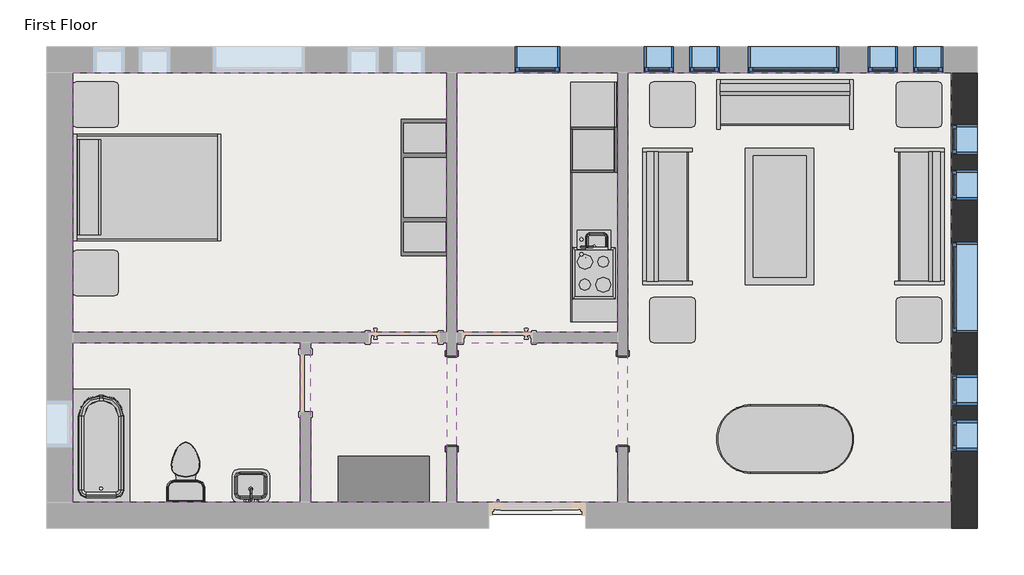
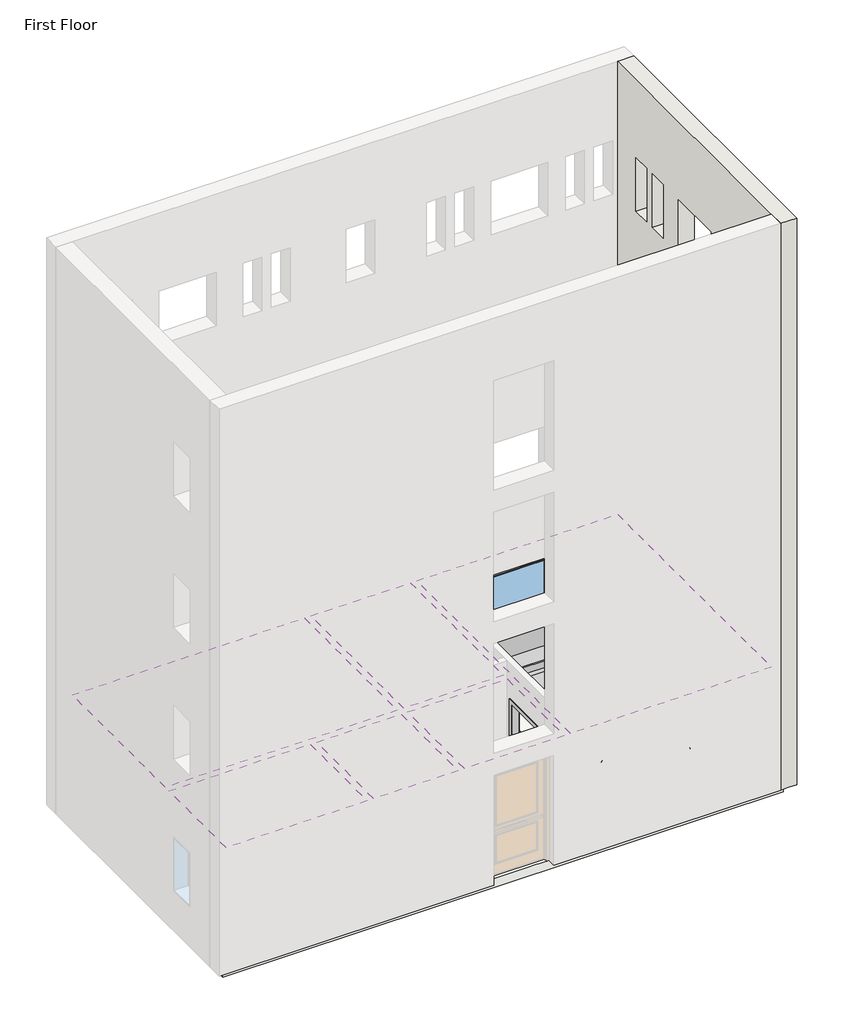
# One storey, part 2 of 2: 15 furniture elements, 11 windows, 6 coverings, 6 proxies, 4 flow terminals, 1 slab, 1 wall.
"""IFC4 building model written with IfcOpenShell, lengths in millimetres."""

from ifc_helpers import new_model, si_unit, frame, origin, place, context, project, spatial, polyline, outline, extrude, faceted_brep, transform, mapped, element, save
from components import m_cook_top_4_unit2_0615_x_500mm_249f3515, m_dishwasher_610_x_610_x_875mm_54ecfc4c, m_kitchenette_medium_m_kitchenette_medium_3ff942c7, m_passage_opening_cased_1220_x_2134_mm_87a8d9c2, m_refrigerator_600_x_660mm_a466bf94, m_sink_kitchen_island_450_x_450mm_f969cf2d, m_sink_vanity_square_500_x_440mm_1e229b74, m_toilet_domestic_3d_m_toilet_domestic_3d_5cb52bd4, m_toilet_domestic_3d_m_toilet_domestic_3d_183bbd19, m_tub_rectangular_3d_m_tub_rectangular_3d_3a981ad5, m_bed_shaker_1422_x_1981mm_double_096e7f55, m_counter_top_w_sink_hole_600mm_depth_8ccae52a, m_dresser_1220_x_1525_x_0610mm_18e1f140, m_entertainment_center_1830_x_1830_x_0610mm_f77a9b93, m_sofa_1830mm_f9e8a66b, m_table_coffee_0915_x_1830_x_0457mm_134cd960, m_table_dining_oval_0915_x_1830mm_a7cfbe21, m_table_end_0610_x_0160mm_cb6ea12e, m_fixed_0406_x_1220mm_57fee329, m_fixed_0406_x_1220mm_85c28f40, m_fixed_0610_x_1220mm_2c28ef1d, m_fixed_1220_x_1220_e08ff7af

model = new_model("IFC4")

# Units and contexts
model_context = context("Model", 3, world=origin())
ifc_project = project(units=[si_unit("LENGTHUNIT", "METRE", prefix="MILLI")], contexts=[model_context])

# Site, building, storey
site = spatial("IfcSite", under=ifc_project)
building = spatial("IfcBuilding", under=site)
storey = spatial("IfcBuildingStorey", under=building, Name="First Floor", Elevation=0.0)

# Proxies
placement = place(None, origin())
m_cook_top_4_unit2_0615_x_500mm_shape = m_cook_top_4_unit2_0615_x_500mm_249f3515(model_context)
element("IfcBuildingElementProxy", 1, Name="M_Cook Top-4 Unit2 : 0615 x 500mm", ObjectType="M_Cook Top-4 Unit2 : 0615 x 500mm", at=placement, inside=storey, context=model_context, shape_type="MappedRepresentation", body=[
    mapped(m_cook_top_4_unit2_0615_x_500mm_shape, transform((-11224.1822145, 11168.140104, 31.0), x_axis=(0.0, 1.0, 0.0), y_axis=(-1.0, 0.0, 0.0), z_axis=(0.0, 0.0, 1.0))),
])
m_dishwasher_610_x_610_x_875mm_shape = m_dishwasher_610_x_610_x_875mm_54ecfc4c(model_context)
element("IfcBuildingElementProxy", 2, Name="M_Dishwasher : 610 x 610 x 875mm", ObjectType="M_Dishwasher : 610 x 610 x 875mm", at=placement, inside=storey, context=model_context, shape_type="MappedRepresentation", body=[
    mapped(m_dishwasher_610_x_610_x_875mm_shape, transform((-10967.5326497, 13033.8726355, 0.0), x_axis=(0.0, 1.0, 0.0), y_axis=(-1.0, 0.0, 0.0), z_axis=(0.0, 0.0, 1.0))),
])
m_kitchenette_medium_m_kitchenette_medium_shape = m_kitchenette_medium_m_kitchenette_medium_3ff942c7(model_context)
element("IfcBuildingElementProxy", 3, Name="M_Kitchenette - Medium : M_Kitchenette - Medium", ObjectType="M_Kitchenette - Medium : M_Kitchenette - Medium", at=placement, inside=storey, context=model_context, shape_type="MappedRepresentation", body=[
    mapped(m_kitchenette_medium_m_kitchenette_medium_shape, transform((-11539.1822145, 11797.152399, 0.0), x_axis=(0.0, 1.0, 0.0), y_axis=(-1.0, 0.0, 0.0), z_axis=(0.0, 0.0, 1.0))),
])
m_passage_opening_cased_1220_x_2134_mm_shape = m_passage_opening_cased_1220_x_2134_mm_87a8d9c2(model_context)
element("IfcBuildingElementProxy", 4, Name="M_Passage Opening-Cased : 1220 x 2134 mm", ObjectType="M_Passage Opening-Cased : 1220 x 2134 mm", at=placement, inside=storey, context=model_context, shape_type="MappedRepresentation", body=[
    mapped(m_passage_opening_cased_1220_x_2134_mm_shape, transform((-10841.0930086, 9462.255705, 0.0), x_axis=(0.0, 1.0, 0.0), y_axis=(-1.0, 0.0, 0.0), z_axis=(0.0, 0.0, 1.0))),
])
element("IfcBuildingElementProxy", 5, Name="M_Passage Opening-Cased : 1220 x 2134 mm", ObjectType="M_Passage Opening-Cased : 1220 x 2134 mm", at=placement, inside=storey, context=model_context, shape_type="MappedRepresentation", body=[
    mapped(m_passage_opening_cased_1220_x_2134_mm_shape, transform((-13127.0930086, 9445.8783915, 0.0), x_axis=(0.0, -1.0, 0.0), y_axis=(1.0, 0.0, 0.0), z_axis=(0.0, 0.0, 1.0))),
])
m_refrigerator_600_x_660mm_shape = m_refrigerator_600_x_660mm_a466bf94(model_context)
element("IfcBuildingElementProxy", 6, Name="M_Refrigerator : 600 x 660mm", ObjectType="M_Refrigerator : 600 x 660mm", at=placement, inside=storey, context=model_context, shape_type="MappedRepresentation", body=[
    mapped(m_refrigerator_600_x_660mm_shape, transform((-11242.9671243, 12874.1912466, 0.0), x_axis=(0.0, 1.0, 0.0), y_axis=(-1.0, 0.0, 0.0), z_axis=(0.0, 0.0, 1.0))),
])

# Coverings
element("IfcCovering", 7, ObjectType="Plain", at=placement, inside=storey, context=model_context, shape_type="SweptSolid", body=[
    extrude(outline(polyline([(-18201.8430086, 13851.0670483), (-13194.8430086, 13851.0670483), (-13194.8430086, 10374.5670483), (-18201.8430086, 10374.5670483), (-18201.8430086, 13851.0670483)])), frame((0.0, 0.0, 2590.0), z_axis=(0.0, 0.0, 1.0), x_axis=(1.0, 0.0, 0.0)), (0.0, 0.0, 1.0), 57.0),
])
element("IfcCovering", 8, ObjectType="Plain", at=placement, inside=storey, context=model_context, shape_type="SweptSolid", body=[
    extrude(outline(polyline([(-13059.3430086, 10374.5670483), (-13059.3430086, 13851.0670483), (-10908.8430086, 13851.0670483), (-10908.8430086, 10374.5670483), (-13059.3430086, 10374.5670483)])), frame((0.0, 0.0, 2590.0), z_axis=(0.0, 0.0, 1.0), x_axis=(1.0, 0.0, 0.0)), (0.0, 0.0, 1.0), 57.0),
])
element("IfcCovering", 9, ObjectType="Plain", at=placement, inside=storey, context=model_context, shape_type="SweptSolid", body=[
    extrude(outline(polyline([(-10773.3430086, 8105.0670483), (-10773.3430086, 13851.0670483), (-6444.0930086, 13851.0670483), (-6444.0930086, 8105.0670483), (-10773.3430086, 8105.0670483)])), frame((0.0, 0.0, 2590.0), z_axis=(0.0, 0.0, 1.0), x_axis=(1.0, 0.0, 0.0)), (0.0, 0.0, 1.0), 57.0),
])
element("IfcCovering", 10, ObjectType="Plain", at=placement, inside=storey, context=model_context, shape_type="SweptSolid", body=[
    extrude(outline(polyline([(-10908.8430086, 8105.0670483), (-13059.3430086, 8105.0670483), (-13059.3430086, 10239.0670483), (-10908.8430086, 10239.0670483), (-10908.8430086, 8105.0670483)])), frame((0.0, 0.0, 2590.0), z_axis=(0.0, 0.0, 1.0), x_axis=(1.0, 0.0, 0.0)), (0.0, 0.0, 1.0), 57.0),
])
element("IfcCovering", 11, ObjectType="Plain", at=placement, inside=storey, context=model_context, shape_type="SweptSolid", body=[
    extrude(outline(polyline([(-13194.8430086, 8105.0670483), (-15018.3430086, 8105.0670483), (-15018.3430086, 10239.0670483), (-13194.8430086, 10239.0670483), (-13194.8430086, 8105.0670483)])), frame((0.0, 0.0, 2590.0), z_axis=(0.0, 0.0, 1.0), x_axis=(1.0, 0.0, 0.0)), (0.0, 0.0, 1.0), 57.0),
])
element("IfcCovering", 12, ObjectType="Plain", at=placement, inside=storey, context=model_context, shape_type="SweptSolid", body=[
    extrude(outline(polyline([(-15153.8430086, 10239.0670483), (-15153.8430086, 8105.0670483), (-18201.8430086, 8105.0670483), (-18201.8430086, 10239.0670483), (-15153.8430086, 10239.0670483)])), frame((0.0, 0.0, 2590.0), z_axis=(0.0, 0.0, 1.0), x_axis=(1.0, 0.0, 0.0)), (0.0, 0.0, 1.0), 57.0),
])

# Flow terminals
m_sink_kitchen_island_450_x_450mm_shape = m_sink_kitchen_island_450_x_450mm_f969cf2d(model_context)
element("IfcFlowTerminal", 13, ObjectType="M_Sink Kitchen-Island : 450 x 450mm", at=placement, inside=storey, context=model_context, shape_type="MappedRepresentation", body=[
    mapped(m_sink_kitchen_island_450_x_450mm_shape, transform((-11223.7368134, 11504.7008634, 31.0), x_axis=(0.0, 1.0, 0.0), y_axis=(-1.0, 0.0, 0.0), z_axis=(0.0, 0.0, 1.0))),
])
m_sink_vanity_square_500_x_440mm_shape = m_sink_vanity_square_500_x_440mm_1e229b74(model_context)
element("IfcFlowTerminal", 14, ObjectType="M_Sink Vanity-Square : 500 x 440mm", at=placement, inside=storey, context=model_context, shape_type="MappedRepresentation", body=[
    mapped(m_sink_vanity_square_500_x_440mm_shape, transform((-15802.3094072, 8285.2124494, 0.0), x_axis=(-1.0, 0.0, 0.0), y_axis=(0.0, -1.0, 0.0), z_axis=(0.0, 0.0, 1.0))),
])
m_toilet_domestic_3d_m_toilet_domestic_3d_shape = m_toilet_domestic_3d_m_toilet_domestic_3d_5cb52bd4(model_context)
m_toilet_domestic_3d_m_toilet_domestic_3d_2_shape = m_toilet_domestic_3d_m_toilet_domestic_3d_183bbd19(model_context)
element("IfcFlowTerminal", 15, ObjectType="M_Toilet-Domestic-3D : M_Toilet-Domestic-3D", at=placement, inside=storey, context=model_context, shape_type="MappedRepresentation", body=[
    mapped(m_toilet_domestic_3d_m_toilet_domestic_3d_shape, transform((-16689.489036, 8599.7630756, 0.0), x_axis=(-1.0, 0.0, 0.0), y_axis=(0.0, -1.0, 0.0), z_axis=(0.0, 0.0, 1.0))),
    mapped(m_toilet_domestic_3d_m_toilet_domestic_3d_2_shape, transform((-16689.489036, 8599.7630756, 0.0), x_axis=(-1.0, 0.0, 0.0), y_axis=(0.0, -1.0, 0.0), z_axis=(0.0, 0.0, 1.0))),
])
m_tub_rectangular_3d_m_tub_rectangular_3d_shape = m_tub_rectangular_3d_m_tub_rectangular_3d_3a981ad5(model_context)
element("IfcFlowTerminal", 16, ObjectType="M_Tub-Rectangular-3D : M_Tub-Rectangular-3D", at=placement, inside=storey, context=model_context, shape_type="MappedRepresentation", body=[
    mapped(m_tub_rectangular_3d_m_tub_rectangular_3d_shape, transform((-18376.8430086, 9198.170017, 0.0), x_axis=(0.0, 1.0, 0.0), y_axis=(-1.0, 0.0, 0.0), z_axis=(0.0, 0.0, 1.0))),
])

# Furniture
m_bed_shaker_1422_x_1981mm_double_shape = m_bed_shaker_1422_x_1981mm_double_096e7f55(model_context)
element("IfcFurniture", 17, ObjectType="M_Bed-Shaker : 1422 x 1981mm - Double", at=placement, inside=storey, context=model_context, shape_type="MappedRepresentation", body=[
    mapped(m_bed_shaker_1422_x_1981mm_double_shape, transform((-18201.8430086, 12334.7295483, 0.0), x_axis=(0.0, 1.0, 0.0), y_axis=(-1.0, 0.0, 0.0), z_axis=(0.0, 0.0, 1.0))),
])
m_counter_top_w_sink_hole_600mm_depth_shape = m_counter_top_w_sink_hole_600mm_depth_8ccae52a(model_context)
element("IfcFurniture", 18, ObjectType="M_Counter Top w Sink Hole : 600mm Depth", at=placement, inside=storey, context=model_context, shape_type="MappedRepresentation", body=[
    mapped(m_counter_top_w_sink_hole_600mm_depth_shape, transform((-11539.1822145, 11720.852399, 31.0), x_axis=(0.0, 1.0, 0.0), y_axis=(-1.0, 0.0, 0.0), z_axis=(0.0, 0.0, 1.0))),
])
m_dresser_1220_x_1525_x_0610mm_shape = m_dresser_1220_x_1525_x_0610mm_18e1f140(model_context)
element("IfcFurniture", 19, ObjectType="M_Dresser : 1220 x 1525 x 0610mm", at=placement, inside=storey, context=model_context, shape_type="MappedRepresentation", body=[
    mapped(m_dresser_1220_x_1525_x_0610mm_shape, transform((-13767.8997488, 8773.2300024, 0.0), x_axis=(1.0, 0.0, 0.0), y_axis=(0.0, 1.0, 0.0), z_axis=(0.0, 0.0, 1.0))),
])
m_entertainment_center_1830_x_1830_x_0610mm_shape = m_entertainment_center_1830_x_1830_x_0610mm_f77a9b93(model_context)
element("IfcFurniture", 20, ObjectType="M_Entertainment center : 1830 x 1830 x 0610mm", at=placement, inside=storey, context=model_context, shape_type="MappedRepresentation", body=[
    mapped(m_entertainment_center_1830_x_1830_x_0610mm_shape, transform((-13906.2430086, 12315.6795483, 0.0), x_axis=(0.0, 1.0, 0.0), y_axis=(-1.0, 0.0, 0.0), z_axis=(0.0, 0.0, 1.0))),
])
m_sofa_1830mm_shape = m_sofa_1830mm_f9e8a66b(model_context)
element("IfcFurniture", 21, ObjectType="M_Sofa : 1830mm", at=placement, inside=storey, context=model_context, shape_type="MappedRepresentation", body=[
    mapped(m_sofa_1830mm_shape, transform((-8739.4635004, 13279.9129499, 0.0), x_axis=(1.0, 0.0, 0.0), y_axis=(0.0, 1.0, 0.0), z_axis=(0.0, 0.0, 1.0))),
])
element("IfcFurniture", 22, ObjectType="M_Sofa : 1830mm", at=placement, inside=storey, context=model_context, shape_type="MappedRepresentation", body=[
    mapped(m_sofa_1830mm_shape, transform((-7015.247107, 11996.4375401, 0.0), x_axis=(0.0, -1.0, 0.0), y_axis=(1.0, 0.0, 0.0), z_axis=(0.0, 0.0, 1.0))),
])
element("IfcFurniture", 23, ObjectType="M_Sofa : 1830mm", at=placement, inside=storey, context=model_context, shape_type="MappedRepresentation", body=[
    mapped(m_sofa_1830mm_shape, transform((-10094.9389103, 11855.6965565, 0.0), x_axis=(0.0, 1.0, 0.0), y_axis=(-1.0, 0.0, 0.0), z_axis=(0.0, 0.0, 1.0))),
])
m_table_coffee_0915_x_1830_x_0457mm_shape = m_table_coffee_0915_x_1830_x_0457mm_134cd960(model_context)
element("IfcFurniture", 24, ObjectType="M_Table-Coffee : 0915 x 1830 x 0457mm", at=placement, inside=storey, context=model_context, shape_type="MappedRepresentation", body=[
    mapped(m_table_coffee_0915_x_1830_x_0457mm_shape, transform((-8645.8819308, 11907.8012816, 0.0), x_axis=(0.0, 1.0, 0.0), y_axis=(-1.0, 0.0, 0.0), z_axis=(0.0, 0.0, 1.0))),
])
m_table_dining_oval_0915_x_1830mm_shape = m_table_dining_oval_0915_x_1830mm_a7cfbe21(model_context)
element("IfcFurniture", 25, ObjectType="M_Table-Dining Oval : 0915 x 1830mm", at=placement, inside=storey, context=model_context, shape_type="MappedRepresentation", body=[
    mapped(m_table_dining_oval_0915_x_1830mm_shape, transform((-8267.2733365, 9307.4154089, 0.0), x_axis=(1.0, 0.0, 0.0), y_axis=(0.0, 1.0, 0.0), z_axis=(0.0, 0.0, 1.0))),
])
m_table_end_0610_x_0160mm_shape = m_table_end_0610_x_0160mm_cb6ea12e(model_context)
element("IfcFurniture", 26, ObjectType="M_Table-End : 0610 x 0160mm", at=placement, inside=storey, context=model_context, shape_type="MappedRepresentation", body=[
    mapped(m_table_end_0610_x_0160mm_shape, transform((-10482.8266389, 13273.6670483, 0.0), x_axis=(1.0, 0.0, 0.0), y_axis=(0.0, 1.0, 0.0), z_axis=(0.0, 0.0, 1.0))),
])
element("IfcFurniture", 27, ObjectType="M_Table-End : 0610 x 0160mm", at=placement, inside=storey, context=model_context, shape_type="MappedRepresentation", body=[
    mapped(m_table_end_0610_x_0160mm_shape, transform((-7182.8266389, 13273.6670483, 0.0), x_axis=(1.0, 0.0, 0.0), y_axis=(0.0, 1.0, 0.0), z_axis=(0.0, 0.0, 1.0))),
])
element("IfcFurniture", 28, ObjectType="M_Table-End : 0610 x 0160mm", at=placement, inside=storey, context=model_context, shape_type="MappedRepresentation", body=[
    mapped(m_table_end_0610_x_0160mm_shape, transform((-7182.8266389, 10391.6670483, 0.0), x_axis=(1.0, 0.0, 0.0), y_axis=(0.0, 1.0, 0.0), z_axis=(0.0, 0.0, 1.0))),
])
element("IfcFurniture", 29, ObjectType="M_Table-End : 0610 x 0160mm", at=placement, inside=storey, context=model_context, shape_type="MappedRepresentation", body=[
    mapped(m_table_end_0610_x_0160mm_shape, transform((-10482.8266389, 10391.6670483, 0.0), x_axis=(1.0, 0.0, 0.0), y_axis=(0.0, 1.0, 0.0), z_axis=(0.0, 0.0, 1.0))),
])
element("IfcFurniture", 30, ObjectType="M_Table-End : 0610 x 0160mm", at=placement, inside=storey, context=model_context, shape_type="MappedRepresentation", body=[
    mapped(m_table_end_0610_x_0160mm_shape, transform((-18205.5766389, 13273.6670483, 0.0), x_axis=(1.0, 0.0, 0.0), y_axis=(0.0, 1.0, 0.0), z_axis=(0.0, 0.0, 1.0))),
])
element("IfcFurniture", 31, ObjectType="M_Table-End : 0610 x 0160mm", at=placement, inside=storey, context=model_context, shape_type="MappedRepresentation", body=[
    mapped(m_table_end_0610_x_0160mm_shape, transform((-18205.5766389, 11018.6670483, 0.0), x_axis=(1.0, 0.0, 0.0), y_axis=(0.0, 1.0, 0.0), z_axis=(0.0, 0.0, 1.0))),
])

# Slab
element("IfcSlab", 32, ObjectType="160mm Concrete With 50mm Metal Deck", at=placement, inside=storey, context=model_context, shape_type="SweptSolid", body=[
    extrude(outline(polyline([(-6279.0930086, 14016.0670483), (-6279.0930086, 7940.0670483), (-18366.8430086, 7940.0670483), (-18366.8430086, 14016.0670483), (-6279.0930086, 14016.0670483)])), frame((0.0, 0.0, -210.0), z_axis=(0.0, 0.0, 1.0), x_axis=(1.0, 0.0, 0.0)), (0.0, 0.0, 1.0), 210.0),
])

# Wall
element("IfcWall", 33, ObjectType="Exterior - Brick on Mtl. Stud", at=placement, inside=storey, context=model_context, shape_type="Brep", body=[
    faceted_brep([(-6444.0930086, 13851.0670483, 0.0), (-6444.0930086, 8105.0670483, 0.0), (-6444.0930086, 7940.0670483, 0.0), (-6444.0930086, 7755.0670483, 0.0), (-6444.0930086, 7755.0670483, 12915.0), (-6444.0930086, 8105.0670483, 12915.0), (-6444.0930086, 13851.0670483, 12915.0), (-6444.0930086, 10368.0670483, 915.0), (-6444.0930086, 11588.0670483, 915.0), (-6444.0930086, 11588.0670483, 2135.0), (-6444.0930086, 10368.0670483, 2135.0), (-6444.0930086, 12756.2670483, 915.0), (-6444.0930086, 13162.2670483, 915.0), (-6444.0930086, 13162.2670483, 2135.0), (-6444.0930086, 12756.2670483, 2135.0), (-6444.0930086, 12146.6670483, 915.0), (-6444.0930086, 12552.6670483, 915.0), (-6444.0930086, 12552.6670483, 2135.0), (-6444.0930086, 12146.6670483, 2135.0), (-6444.0930086, 9199.8670483, 915.0), (-6444.0930086, 9199.8670483, 2135.0), (-6444.0930086, 8793.8670483, 2135.0), (-6444.0930086, 8793.8670483, 915.0), (-6444.0930086, 9809.4670483, 915.0), (-6444.0930086, 9809.4670483, 2135.0), (-6444.0930086, 9403.4670483, 2135.0), (-6444.0930086, 9403.4670483, 915.0), (-6444.0930086, 9199.8670483, 9915.0), (-6444.0930086, 9199.8670483, 11135.0), (-6444.0930086, 8793.8670483, 11135.0), (-6444.0930086, 8793.8670483, 9915.0), (-6444.0930086, 9809.4670483, 9915.0), (-6444.0930086, 9809.4670483, 11135.0), (-6444.0930086, 9403.4670483, 11135.0), (-6444.0930086, 9403.4670483, 9915.0), (-6444.0930086, 12756.2670483, 9915.0), (-6444.0930086, 13162.2670483, 9915.0), (-6444.0930086, 13162.2670483, 11135.0), (-6444.0930086, 12756.2670483, 11135.0), (-6444.0930086, 12146.6670483, 9915.0), (-6444.0930086, 12552.6670483, 9915.0), (-6444.0930086, 12552.6670483, 11135.0), (-6444.0930086, 12146.6670483, 11135.0), (-6444.0930086, 10368.0670483, 9915.0), (-6444.0930086, 11588.0670483, 9915.0), (-6444.0930086, 11588.0670483, 11135.0), (-6444.0930086, 10368.0670483, 11135.0), (-6444.0930086, 9199.8670483, 3915.0), (-6444.0930086, 9199.8670483, 5135.0), (-6444.0930086, 8793.8670483, 5135.0), (-6444.0930086, 8793.8670483, 3915.0), (-6444.0930086, 9809.4670483, 3915.0), (-6444.0930086, 9809.4670483, 5135.0), (-6444.0930086, 9403.4670483, 5135.0), (-6444.0930086, 9403.4670483, 3915.0), (-6444.0930086, 12756.2670483, 3915.0), (-6444.0930086, 13162.2670483, 3915.0), (-6444.0930086, 13162.2670483, 5135.0), (-6444.0930086, 12756.2670483, 5135.0), (-6444.0930086, 12146.6670483, 3915.0), (-6444.0930086, 12552.6670483, 3915.0), (-6444.0930086, 12552.6670483, 5135.0), (-6444.0930086, 12146.6670483, 5135.0), (-6444.0930086, 10368.0670483, 3915.0), (-6444.0930086, 11588.0670483, 3915.0), (-6444.0930086, 11588.0670483, 5135.0), (-6444.0930086, 10368.0670483, 5135.0), (-6444.0930086, 9199.8670483, 6915.0), (-6444.0930086, 9199.8670483, 8135.0), (-6444.0930086, 8793.8670483, 8135.0), (-6444.0930086, 8793.8670483, 6915.0), (-6444.0930086, 9809.4670483, 6915.0), (-6444.0930086, 9809.4670483, 8135.0), (-6444.0930086, 9403.4670483, 8135.0), (-6444.0930086, 9403.4670483, 6915.0), (-6444.0930086, 12756.2670483, 6915.0), (-6444.0930086, 13162.2670483, 6915.0), (-6444.0930086, 13162.2670483, 8135.0), (-6444.0930086, 12756.2670483, 8135.0), (-6444.0930086, 12146.6670483, 6915.0), (-6444.0930086, 12552.6670483, 6915.0), (-6444.0930086, 12552.6670483, 8135.0), (-6444.0930086, 12146.6670483, 8135.0), (-6444.0930086, 10368.0670483, 6915.0), (-6444.0930086, 11588.0670483, 6915.0), (-6444.0930086, 11588.0670483, 8135.0), (-6444.0930086, 10368.0670483, 8135.0), (-6094.0930086, 13851.0670483, 0.0), (-6094.0930086, 13851.0670483, 12915.0), (-6094.0930086, 7755.0670483, 12915.0), (-6094.0930086, 7755.0670483, 0.0), (-6094.0930086, 7940.0670483, 0.0), (-6094.0930086, 10368.0670483, 915.0), (-6094.0930086, 10368.0670483, 2135.0), (-6094.0930086, 11588.0670483, 2135.0), (-6094.0930086, 11588.0670483, 915.0), (-6094.0930086, 12756.2670483, 915.0), (-6094.0930086, 12756.2670483, 2135.0), (-6094.0930086, 13162.2670483, 2135.0), (-6094.0930086, 13162.2670483, 915.0), (-6094.0930086, 12146.6670483, 915.0), (-6094.0930086, 12146.6670483, 2135.0), (-6094.0930086, 12552.6670483, 2135.0), (-6094.0930086, 12552.6670483, 915.0), (-6094.0930086, 9199.8670483, 915.0), (-6094.0930086, 8793.8670483, 915.0), (-6094.0930086, 8793.8670483, 2135.0), (-6094.0930086, 9199.8670483, 2135.0), (-6094.0930086, 9809.4670483, 915.0), (-6094.0930086, 9403.4670483, 915.0), (-6094.0930086, 9403.4670483, 2135.0), (-6094.0930086, 9809.4670483, 2135.0), (-6094.0930086, 9199.8670483, 9915.0), (-6094.0930086, 8793.8670483, 9915.0), (-6094.0930086, 8793.8670483, 11135.0), (-6094.0930086, 9199.8670483, 11135.0), (-6094.0930086, 9809.4670483, 9915.0), (-6094.0930086, 9403.4670483, 9915.0), (-6094.0930086, 9403.4670483, 11135.0), (-6094.0930086, 9809.4670483, 11135.0), (-6094.0930086, 12756.2670483, 9915.0), (-6094.0930086, 12756.2670483, 11135.0), (-6094.0930086, 13162.2670483, 11135.0), (-6094.0930086, 13162.2670483, 9915.0), (-6094.0930086, 12146.6670483, 9915.0), (-6094.0930086, 12146.6670483, 11135.0), (-6094.0930086, 12552.6670483, 11135.0), (-6094.0930086, 12552.6670483, 9915.0), (-6094.0930086, 10368.0670483, 9915.0), (-6094.0930086, 10368.0670483, 11135.0), (-6094.0930086, 11588.0670483, 11135.0), (-6094.0930086, 11588.0670483, 9915.0), (-6094.0930086, 9199.8670483, 3915.0), (-6094.0930086, 8793.8670483, 3915.0), (-6094.0930086, 8793.8670483, 5135.0), (-6094.0930086, 9199.8670483, 5135.0), (-6094.0930086, 9809.4670483, 3915.0), (-6094.0930086, 9403.4670483, 3915.0), (-6094.0930086, 9403.4670483, 5135.0), (-6094.0930086, 9809.4670483, 5135.0), (-6094.0930086, 12756.2670483, 3915.0), (-6094.0930086, 12756.2670483, 5135.0), (-6094.0930086, 13162.2670483, 5135.0), (-6094.0930086, 13162.2670483, 3915.0), (-6094.0930086, 12146.6670483, 3915.0), (-6094.0930086, 12146.6670483, 5135.0), (-6094.0930086, 12552.6670483, 5135.0), (-6094.0930086, 12552.6670483, 3915.0), (-6094.0930086, 10368.0670483, 3915.0), (-6094.0930086, 10368.0670483, 5135.0), (-6094.0930086, 11588.0670483, 5135.0), (-6094.0930086, 11588.0670483, 3915.0), (-6094.0930086, 9199.8670483, 6915.0), (-6094.0930086, 8793.8670483, 6915.0), (-6094.0930086, 8793.8670483, 8135.0), (-6094.0930086, 9199.8670483, 8135.0), (-6094.0930086, 9809.4670483, 6915.0), (-6094.0930086, 9403.4670483, 6915.0), (-6094.0930086, 9403.4670483, 8135.0), (-6094.0930086, 9809.4670483, 8135.0), (-6094.0930086, 12756.2670483, 6915.0), (-6094.0930086, 12756.2670483, 8135.0), (-6094.0930086, 13162.2670483, 8135.0), (-6094.0930086, 13162.2670483, 6915.0), (-6094.0930086, 12146.6670483, 6915.0), (-6094.0930086, 12146.6670483, 8135.0), (-6094.0930086, 12552.6670483, 8135.0), (-6094.0930086, 12552.6670483, 6915.0), (-6094.0930086, 10368.0670483, 6915.0), (-6094.0930086, 10368.0670483, 8135.0), (-6094.0930086, 11588.0670483, 8135.0), (-6094.0930086, 11588.0670483, 6915.0), (-6279.0930086, 13851.0670483, 0.0), (-6279.0930086, 7755.0670483, 0.0), (-6279.0930086, 7940.0670483, 0.0)], [[[0, 1, 2, 3, 4, 5, 6], [7, 8, 9, 10], [11, 12, 13, 14], [15, 16, 17, 18], [19, 20, 21, 22], [23, 24, 25, 26], [27, 28, 29, 30], [31, 32, 33, 34], [35, 36, 37, 38], [39, 40, 41, 42], [43, 44, 45, 46], [47, 48, 49, 50], [51, 52, 53, 54], [55, 56, 57, 58], [59, 60, 61, 62], [63, 64, 65, 66], [67, 68, 69, 70], [71, 72, 73, 74], [75, 76, 77, 78], [79, 80, 81, 82], [83, 84, 85, 86]], [[87, 88, 89, 90, 91], [92, 93, 94, 95], [96, 97, 98, 99], [100, 101, 102, 103], [104, 105, 106, 107], [108, 109, 110, 111], [112, 113, 114, 115], [116, 117, 118, 119], [120, 121, 122, 123], [124, 125, 126, 127], [128, 129, 130, 131], [132, 133, 134, 135], [136, 137, 138, 139], [140, 141, 142, 143], [144, 145, 146, 147], [148, 149, 150, 151], [152, 153, 154, 155], [156, 157, 158, 159], [160, 161, 162, 163], [164, 165, 166, 167], [168, 169, 170, 171]], [[6, 5, 4, 89, 88]], [[0, 6, 88, 87, 172]], [[4, 3, 173, 90, 89]], [[93, 92, 7, 10]], [[94, 93, 10, 9]], [[95, 94, 9, 8]], [[92, 95, 8, 7]], [[97, 96, 11, 14]], [[98, 97, 14, 13]], [[99, 98, 13, 12]], [[96, 99, 12, 11]], [[101, 100, 15, 18]], [[102, 101, 18, 17]], [[103, 102, 17, 16]], [[100, 103, 16, 15]], [[20, 19, 104, 107]], [[21, 20, 107, 106]], [[22, 21, 106, 105]], [[19, 22, 105, 104]], [[24, 23, 108, 111]], [[25, 24, 111, 110]], [[26, 25, 110, 109]], [[23, 26, 109, 108]], [[172, 87, 91, 174]], [[3, 2, 174, 173]], [[174, 91, 90, 173]], [[2, 1, 0, 172, 174]], [[28, 27, 112, 115]], [[29, 28, 115, 114]], [[30, 29, 114, 113]], [[27, 30, 113, 112]], [[32, 31, 116, 119]], [[33, 32, 119, 118]], [[34, 33, 118, 117]], [[31, 34, 117, 116]], [[121, 120, 35, 38]], [[122, 121, 38, 37]], [[123, 122, 37, 36]], [[120, 123, 36, 35]], [[125, 124, 39, 42]], [[126, 125, 42, 41]], [[127, 126, 41, 40]], [[124, 127, 40, 39]], [[129, 128, 43, 46]], [[130, 129, 46, 45]], [[131, 130, 45, 44]], [[128, 131, 44, 43]], [[48, 47, 132, 135]], [[49, 48, 135, 134]], [[50, 49, 134, 133]], [[47, 50, 133, 132]], [[52, 51, 136, 139]], [[53, 52, 139, 138]], [[54, 53, 138, 137]], [[51, 54, 137, 136]], [[141, 140, 55, 58]], [[142, 141, 58, 57]], [[143, 142, 57, 56]], [[140, 143, 56, 55]], [[145, 144, 59, 62]], [[146, 145, 62, 61]], [[147, 146, 61, 60]], [[144, 147, 60, 59]], [[149, 148, 63, 66]], [[150, 149, 66, 65]], [[151, 150, 65, 64]], [[148, 151, 64, 63]], [[68, 67, 152, 155]], [[69, 68, 155, 154]], [[70, 69, 154, 153]], [[67, 70, 153, 152]], [[72, 71, 156, 159]], [[73, 72, 159, 158]], [[74, 73, 158, 157]], [[71, 74, 157, 156]], [[161, 160, 75, 78]], [[162, 161, 78, 77]], [[163, 162, 77, 76]], [[160, 163, 76, 75]], [[165, 164, 79, 82]], [[166, 165, 82, 81]], [[167, 166, 81, 80]], [[164, 167, 80, 79]], [[169, 168, 83, 86]], [[170, 169, 86, 85]], [[171, 170, 85, 84]], [[168, 171, 84, 83]]]),
])

# Windows
m_fixed_0406_x_1220mm_shape = m_fixed_0406_x_1220mm_57fee329(model_context)
element("IfcWindow", 34, ObjectType="M_Fixed : 0406 x 1220mm", at=placement, inside=storey, context=model_context, shape_type="MappedRepresentation", body=[
    mapped(m_fixed_0406_x_1220mm_shape, transform((-9748.4930086, 14039.0670483, 0.0), x_axis=(-1.0, 0.0, 0.0), y_axis=(0.0, -1.0, 0.0), z_axis=(0.0, 0.0, 1.0))),
])
element("IfcWindow", 35, ObjectType="M_Fixed : 0406 x 1220mm", at=placement, inside=storey, context=model_context, shape_type="MappedRepresentation", body=[
    mapped(m_fixed_0406_x_1220mm_shape, transform((-10358.0930086, 14039.0670483, 0.0), x_axis=(-1.0, 0.0, 0.0), y_axis=(0.0, -1.0, 0.0), z_axis=(0.0, 0.0, 1.0))),
])
element("IfcWindow", 36, ObjectType="M_Fixed : 0406 x 1220mm", at=placement, inside=storey, context=model_context, shape_type="MappedRepresentation", body=[
    mapped(m_fixed_0406_x_1220mm_shape, transform((-6256.0930086, 12349.6670483, 0.0), x_axis=(0.0, 1.0, 0.0), y_axis=(-1.0, 0.0, 0.0), z_axis=(0.0, 0.0, 1.0))),
])
element("IfcWindow", 37, ObjectType="M_Fixed : 0406 x 1220mm", at=placement, inside=storey, context=model_context, shape_type="MappedRepresentation", body=[
    mapped(m_fixed_0406_x_1220mm_shape, transform((-6256.0930086, 12959.2670483, 0.0), x_axis=(0.0, 1.0, 0.0), y_axis=(-1.0, 0.0, 0.0), z_axis=(0.0, 0.0, 1.0))),
])
m_fixed_0406_x_1220mm_2_shape = m_fixed_0406_x_1220mm_85c28f40(model_context)
element("IfcWindow", 38, ObjectType="M_Fixed : 0406 x 1220mm", at=placement, inside=storey, context=model_context, shape_type="MappedRepresentation", body=[
    mapped(m_fixed_0406_x_1220mm_2_shape, transform((-7361.6930086, 14039.0670483, 0.0), x_axis=(1.0, 0.0, 0.0), y_axis=(0.0, 1.0, 0.0), z_axis=(0.0, 0.0, 1.0))),
])
element("IfcWindow", 39, ObjectType="M_Fixed : 0406 x 1220mm", at=placement, inside=storey, context=model_context, shape_type="MappedRepresentation", body=[
    mapped(m_fixed_0406_x_1220mm_2_shape, transform((-6752.0930086, 14039.0670483, 0.0), x_axis=(1.0, 0.0, 0.0), y_axis=(0.0, 1.0, 0.0), z_axis=(0.0, 0.0, 1.0))),
])
element("IfcWindow", 40, ObjectType="M_Fixed : 0406 x 1220mm", at=placement, inside=storey, context=model_context, shape_type="MappedRepresentation", body=[
    mapped(m_fixed_0406_x_1220mm_2_shape, transform((-6256.0930086, 9606.4670483, 0.0), x_axis=(0.0, -1.0, 0.0), y_axis=(1.0, 0.0, 0.0), z_axis=(0.0, 0.0, 1.0))),
])
element("IfcWindow", 41, ObjectType="M_Fixed : 0406 x 1220mm", at=placement, inside=storey, context=model_context, shape_type="MappedRepresentation", body=[
    mapped(m_fixed_0406_x_1220mm_2_shape, transform((-6256.0930086, 8996.8670483, 0.0), x_axis=(0.0, -1.0, 0.0), y_axis=(1.0, 0.0, 0.0), z_axis=(0.0, 0.0, 1.0))),
])
m_fixed_0610_x_1220mm_shape = m_fixed_0610_x_1220mm_2c28ef1d(model_context)
element("IfcWindow", 42, ObjectType="M_Fixed : 0610 x 1220mm", at=placement, inside=storey, context=model_context, shape_type="MappedRepresentation", body=[
    mapped(m_fixed_0610_x_1220mm_shape, transform((-11984.0930086, 14039.0670483, 0.0), x_axis=(-1.0, 0.0, 0.0), y_axis=(0.0, -1.0, 0.0), z_axis=(0.0, 0.0, 1.0))),
])
m_fixed_1220_x_1220_shape = m_fixed_1220_x_1220_e08ff7af(model_context)
element("IfcWindow", 43, ObjectType="M_Fixed : 1220 x 1220", at=placement, inside=storey, context=model_context, shape_type="MappedRepresentation", body=[
    mapped(m_fixed_1220_x_1220_shape, transform((-8555.0930086, 14039.0670483, 0.0), x_axis=(-1.0, 0.0, 0.0), y_axis=(0.0, -1.0, 0.0), z_axis=(0.0, 0.0, 1.0))),
])
element("IfcWindow", 44, ObjectType="M_Fixed : 1220 x 1220", at=placement, inside=storey, context=model_context, shape_type="MappedRepresentation", body=[
    mapped(m_fixed_1220_x_1220_shape, transform((-6256.0930086, 10978.0670483, 0.0), x_axis=(0.0, 1.0, 0.0), y_axis=(-1.0, 0.0, 0.0), z_axis=(0.0, 0.0, 1.0))),
])

save(model, "model.ifc")
